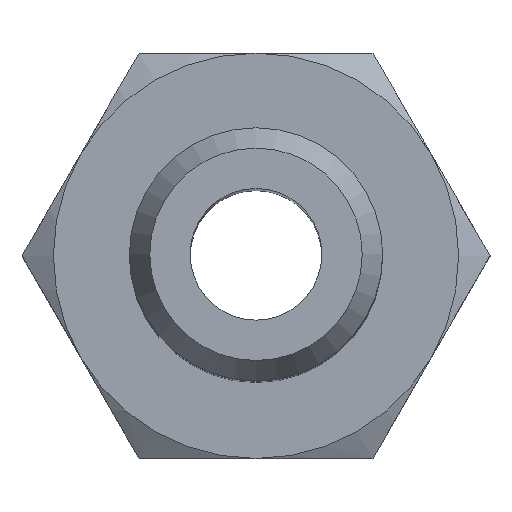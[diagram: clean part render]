
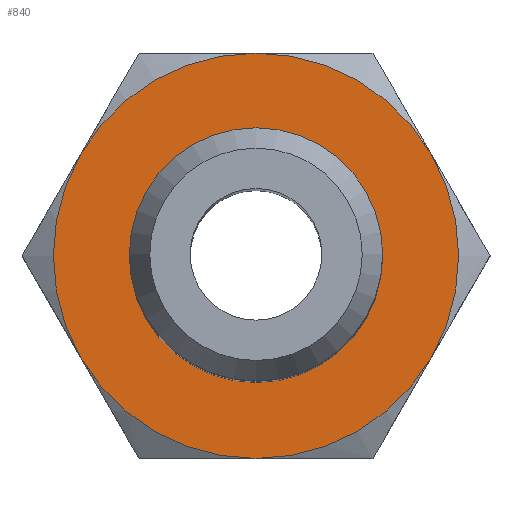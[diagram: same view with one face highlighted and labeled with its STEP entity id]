
A CAD part, top view. The second image highlights one B-rep face of the part: STEP entity #840.
In plain terms, the highlighted planar face has unit normal (0, 0, 1).
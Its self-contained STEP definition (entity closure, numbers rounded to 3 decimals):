
#840=ADVANCED_FACE('', (#850,#860), #870, .T.);
#2900=AXIS2_PLACEMENT_3D('Ax2Pl3d', #2910, #2920, #2930);
#2980=AXIS2_PLACEMENT_3D('Ax2Pl3d', #2990, #3000, #3010);
#3060=AXIS2_PLACEMENT_3D('Ax2Pl3d', #3070, #3080, #3090);
#3140=AXIS2_PLACEMENT_3D('Ax2Pl3d', #3150, #3160, #3170);
#3220=AXIS2_PLACEMENT_3D('Ax2Pl3d', #3230, #3240, #3250);
#3300=AXIS2_PLACEMENT_3D('Ax2Pl3d', #3310, #3320, #3330);
#3340=AXIS2_PLACEMENT_3D('Ax2Pl3d', #3350, #3360, #3370);
#3380=AXIS2_PLACEMENT_3D('Ax2Pl3d', #3390, #3400, #3410);
#5990=CARTESIAN_POINT('', (5.541,7.865,11.967));
#6170=CARTESIAN_POINT('', (9.005,9.865,11.967));
#6180=CARTESIAN_POINT('', (5.541,3.865,11.967));
#6280=CARTESIAN_POINT('', (9.005,1.865,11.967));
#6400=CARTESIAN_POINT('', (12.469,7.865,11.967));
#6410=CARTESIAN_POINT('', (12.469,3.865,11.967));
#2910=CARTESIAN_POINT('HicPkt', (9.005,5.865,
11.967));
#2990=CARTESIAN_POINT('HicPkt', (9.005,5.865,
11.967));
#3070=CARTESIAN_POINT('HicPkt', (9.005,5.865,
11.967));
#3150=CARTESIAN_POINT('HicPkt', (9.005,5.865,
11.967));
#3230=CARTESIAN_POINT('HicPkt', (9.005,5.865,
11.967));
#3310=CARTESIAN_POINT('HicPkt', (9.005,5.865,
11.967));
#3350=CARTESIAN_POINT('HicPkt', (13.005,5.865,
11.967));
#3390=CARTESIAN_POINT('HicPkt', (9.005,5.865,
11.967));
#6420=CARTESIAN_POINT('', (9.005,8.365,11.967));
#6730=CIRCLE('Circle', #2900, 4.);
#6740=CIRCLE('Circle', #2980, 4.);
#6750=CIRCLE('Circle', #3060, 4.);
#6760=CIRCLE('Circle', #3140, 4.);
#6770=CIRCLE('Circle', #3220, 4.);
#6780=CIRCLE('Circle', #3300, 4.);
#6790=CIRCLE('Circle', #3380, 2.5);
#2920=DIRECTION('Axis', (0.,0.,-1.));
#2930=DIRECTION('RefDirection', (-1.,-0.,0.));
#3000=DIRECTION('Axis', (0.,0.,-1.));
#3010=DIRECTION('RefDirection', (-1.,-0.,0.));
#3080=DIRECTION('Axis', (0.,0.,-1.));
#3090=DIRECTION('RefDirection', (-1.,-0.,0.));
#3160=DIRECTION('Axis', (0.,0.,-1.));
#3170=DIRECTION('RefDirection', (-1.,-0.,0.));
#3240=DIRECTION('Axis', (0.,0.,-1.));
#3250=DIRECTION('RefDirection', (-1.,-0.,0.));
#3320=DIRECTION('Axis', (0.,0.,-1.));
#3330=DIRECTION('RefDirection', (-1.,-0.,0.));
#3360=DIRECTION('Axis', (0.,0.,1.));
#3370=DIRECTION('RefDirection', (1.,0.,-0.));
#3400=DIRECTION('Axis', (0.,0.,1.));
#3410=DIRECTION('RefDirection', (1.,0.,-0.));
#10160=EDGE_CURVE('', #9700, #9370, #6730, .T.);
#10170=EDGE_CURVE('', #9370, #9670, #6740, .T.);
#10180=EDGE_CURVE('', #9670, #10110, #6750, .T.);
#10190=EDGE_CURVE('', #10110, #10140, #6760, .T.);
#10200=EDGE_CURVE('', #10140, #9870, #6770, .T.);
#10210=EDGE_CURVE('', #9870, #9700, #6780, .T.);
#10220=EDGE_CURVE('', #10230, #10230, #6790, .T.);
#11770=EDGE_LOOP('Edge_loop', (#11780,#11790,#11800,#11810,#11820,
#11830));
#11840=EDGE_LOOP('Edge_loop', (#11850));
#860=FACE_BOUND('', #11840, .T.);
#850=FACE_OUTER_BOUND('Face_outer_bound', #11770, .T.);
#11780=ORIENTED_EDGE('', *, *, #10200, .F.);
#11790=ORIENTED_EDGE('', *, *, #10190, .F.);
#11800=ORIENTED_EDGE('', *, *, #10180, .F.);
#11810=ORIENTED_EDGE('', *, *, #10170, .F.);
#11820=ORIENTED_EDGE('', *, *, #10160, .F.);
#11830=ORIENTED_EDGE('', *, *, #10210, .F.);
#11850=ORIENTED_EDGE('', *, *, #10220, .F.);
#870=PLANE('Plane', #3340);
#9370=VERTEX_POINT('', #5990);
#9670=VERTEX_POINT('', #6170);
#9700=VERTEX_POINT('', #6180);
#9870=VERTEX_POINT('', #6280);
#10110=VERTEX_POINT('', #6400);
#10140=VERTEX_POINT('', #6410);
#10230=VERTEX_POINT('', #6420);
